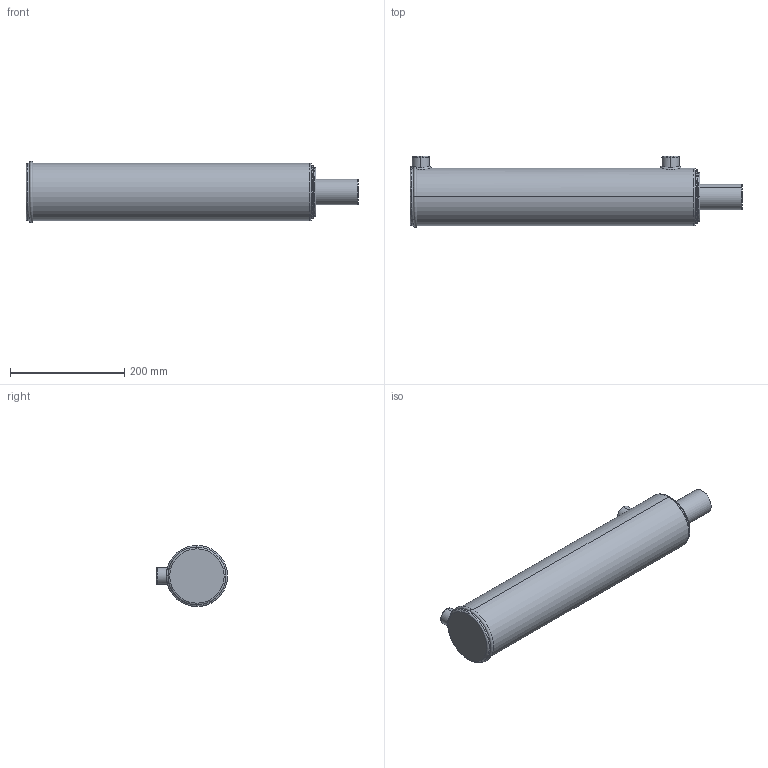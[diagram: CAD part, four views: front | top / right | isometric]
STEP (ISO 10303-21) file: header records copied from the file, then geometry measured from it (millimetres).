
FILE_DESCRIPTION (( 'STEP AP203' ), '1' );
FILE_NAME ('BL350175x406 (16).STEP', '2014-11-24T03:13:54', ( '' ), ( '' ), 'SwSTEP 2.0', 'SolidWorks 2014', '' );
FILE_SCHEMA (( 'CONFIG_CONTROL_DESIGN' ));
Length unit declared in the file: millimetre
Products named in the file (3): BL body 3.5_3.5x16; Spare_3.5x16; BL350175x406 (16)
Assembly tree (2 placements, depth 2):
  BL350175x406 (16)
    BL body 3.5_3.5x16
    Spare_3.5x16
Bounding box: 581 x 124.4 x 107.2 mm (x, y, z)
Volume: 4472392 mm3; surface area: 293693.2 mm2
Topology: 2 solids, 2 shells, 88 faces, 205 edges, 126 vertices
Faces by surface type: cylinder 32, plane 20, torus 17, bspline 11, cone 8
Entity records: 6022 total; most frequent: CARTESIAN_POINT 3775, DIRECTION 420, ORIENTED_EDGE 402, EDGE_CURVE 201, AXIS2_PLACEMENT_3D 181, VERTEX_POINT 126, EDGE_LOOP 101, CIRCLE 99
